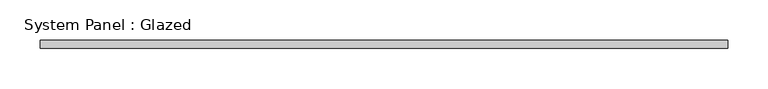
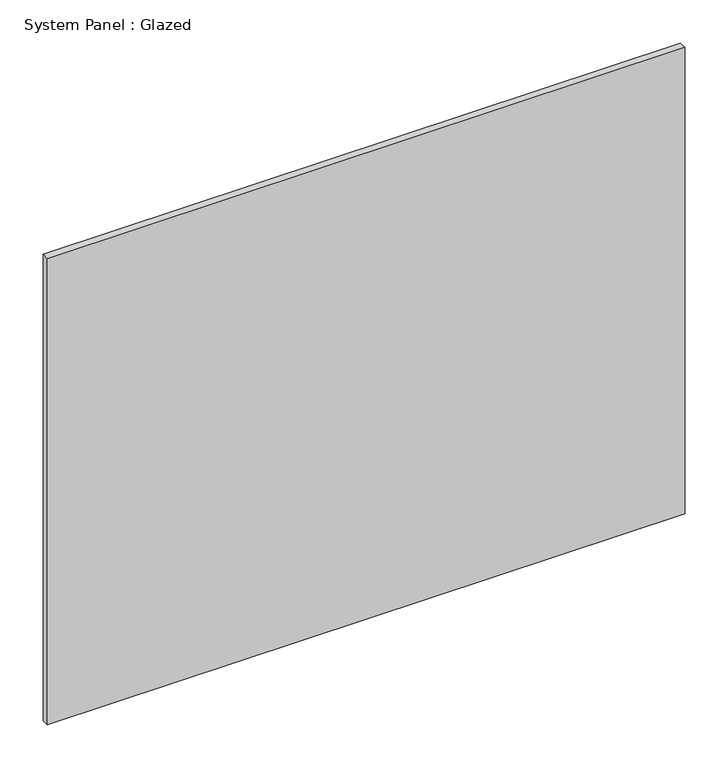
"""IFC4 building model written with IfcOpenShell, lengths in millimetres: plate geometry, System Panel : Glazed."""

import ifcopenshell
import ifcopenshell.guid

model = None  # the IFC model being written
_history = None  # IfcOwnerHistory: only IFC2X3 demands one
_inside = {}  # id of a spatial element -> (the spatial element, [elements in it])
_under = {}  # id of a project, library or spatial element -> (it, [spatial elements below it])
_declared = {}  # id of a project -> (the project, [libraries it declares])
_typed = {}  # id of a type object -> (the type object, [elements of that type])
_made_of = {}  # id of a material, layer set ... -> (it, [elements and type objects made of it])


def new_model(schema):
    """Start an empty IFC model of exactly this schema.

    Asked for "IFC4X3", IfcOpenShell would pick the latest addendum, in which some entities
    have other attributes; the version numbers below select the first issue.
    IFC2X3 requires an IfcOwnerHistory on every rooted entity: one is made here for all.
    """
    global model, _history
    if schema == "IFC4X3":
        model = ifcopenshell.file(schema_version=(4, 3, 0, 0))
    else:
        model = ifcopenshell.file(schema=schema)
    _inside.clear()
    _under.clear()
    _declared.clear()
    _typed.clear()
    _made_of.clear()
    _history = None
    if model.schema == "IFC2X3":
        org = make("IfcOrganization", Name="unknown")
        user = make(
            "IfcPersonAndOrganization",
            ThePerson=make("IfcPerson", FamilyName="unknown"),
            TheOrganization=org,
        )
        app = make(
            "IfcApplication",
            ApplicationDeveloper=org,
            Version="unknown",
            ApplicationFullName="unknown",
            ApplicationIdentifier="unknown",
        )
        _history = make(
            "IfcOwnerHistory",
            OwningUser=user,
            OwningApplication=app,
            ChangeAction="ADDED",
            CreationDate=0,
        )
    return model


def make(cls, **values):
    """One entity of the class cls with the attributes given. An attribute that is None is left unset."""
    return model.create_entity(
        cls, **{name: value for name, value in values.items() if value is not None}
    )


def rooted(cls, **values):
    """An entity with a GlobalId (a new one), such as an element, a storey or a relation."""
    return make(cls, GlobalId=ifcopenshell.guid.new(), OwnerHistory=_history, **values)


def si_unit(unit_type, name, prefix=None):
    """IfcSIUnit, for example si_unit("LENGTHUNIT", "METRE", prefix="MILLI")."""
    return make("IfcSIUnit", UnitType=unit_type, Prefix=prefix, Name=name)


def assignment(units):
    """IfcUnitAssignment: the units of a project."""
    return None if units is None else make("IfcUnitAssignment", Units=units)


def point(xyz):
    """IfcCartesianPoint."""
    return None if xyz is None else make("IfcCartesianPoint", Coordinates=xyz)


def direction(xyz):
    """IfcDirection."""
    return None if xyz is None else make("IfcDirection", DirectionRatios=xyz)


def frame(location, z_axis=None, x_axis=None):
    """IfcAxis2Placement3D, a coordinate frame: its origin and axes. An axis left out is left unset."""
    return make(
        "IfcAxis2Placement3D",
        Location=point(location),
        Axis=direction(z_axis),
        RefDirection=direction(x_axis),
    )


def origin():
    """The frame at (0, 0, 0) with its axes left unset."""
    return frame((0.0, 0.0, 0.0))


def origin_with_axes():
    """The frame at (0, 0, 0) with the z axis (0, 0, 1) and the x axis (1, 0, 0) written out."""
    return frame((0.0, 0.0, 0.0), z_axis=(0.0, 0.0, 1.0), x_axis=(1.0, 0.0, 0.0))


def place(relative_to, where):
    """IfcLocalPlacement: puts the frame where relative to a parent placement (None: the world)."""
    return make(
        "IfcLocalPlacement", PlacementRelTo=relative_to, RelativePlacement=where
    )


def context(
    kind, dimensions, precision=None, world=None, true_north=None, identifier=None
):
    """IfcGeometricRepresentationContext, for example the 3D "Model" context."""
    return make(
        "IfcGeometricRepresentationContext",
        ContextIdentifier=identifier,
        ContextType=kind,
        CoordinateSpaceDimension=dimensions,
        Precision=precision,
        WorldCoordinateSystem=world,
        TrueNorth=true_north,
    )


def project(units=None, contexts=None):
    """IfcProject with its units and contexts."""
    return rooted(
        "IfcProject",
        Name="project",
        RepresentationContexts=contexts,
        UnitsInContext=assignment(units),
    )


def spatial(cls, under=None, at=None, **own):
    """A site, building, storey or space (cls), placed at a placement, below another one or the project."""
    s = rooted(cls, ObjectPlacement=at, **own)
    if under is not None:
        _under.setdefault(under.id(), (under, []))[1].append(s)
    return s


def polyline(points):
    """IfcPolyline through the points."""
    return make("IfcPolyline", Points=[point(p) for p in points])


def outline(outer, holes=None, kind="AREA"):
    """IfcArbitraryClosedProfileDef: a profile drawn as a closed curve; with holes, ...WithVoids."""
    if holes is None:
        return make("IfcArbitraryClosedProfileDef", ProfileType=kind, OuterCurve=outer)
    return make(
        "IfcArbitraryProfileDefWithVoids",
        ProfileType=kind,
        OuterCurve=outer,
        InnerCurves=holes,
    )


def extrude(swept, where, along, depth):
    """IfcExtrudedAreaSolid: the profile swept, set in the frame where, extruded along a direction by depth."""
    return make(
        "IfcExtrudedAreaSolid",
        SweptArea=swept,
        Position=where,
        ExtrudedDirection=direction(along),
        Depth=depth,
    )


def shape(context_of_items, identifier, shape_type, items):
    """IfcShapeRepresentation: the items that make up one representation, for example the "Body"."""
    return make(
        "IfcShapeRepresentation",
        ContextOfItems=context_of_items,
        RepresentationIdentifier=identifier,
        RepresentationType=shape_type,
        Items=items,
    )


def source(mapping_origin, context_of_items, identifier, shape_type, items):
    """IfcRepresentationMap: a shape defined once, which mapped items show again and again."""
    return make(
        "IfcRepresentationMap",
        MappingOrigin=mapping_origin,
        MappedRepresentation=shape(context_of_items, identifier, shape_type, items),
    )


def transform(
    local_origin,
    x_axis=None,
    y_axis=None,
    z_axis=None,
    scale=None,
    scale2=None,
    scale3=None,
    uniform=True,
):
    """IfcCartesianTransformationOperator3D, or its non-uniform kind. x_axis, y_axis, z_axis: its Axis1, 2, 3."""
    if uniform:
        return make(
            "IfcCartesianTransformationOperator3D",
            Axis1=direction(x_axis),
            Axis2=direction(y_axis),
            LocalOrigin=point(local_origin),
            Scale=scale,
            Axis3=direction(z_axis),
        )
    return make(
        "IfcCartesianTransformationOperator3DnonUniform",
        Axis1=direction(x_axis),
        Axis2=direction(y_axis),
        LocalOrigin=point(local_origin),
        Scale=scale,
        Axis3=direction(z_axis),
        Scale2=scale2,
        Scale3=scale3,
    )


def mapped(mapping_source, mapping_target):
    """IfcMappedItem: shows the shape of a source again, moved by a transform."""
    return make(
        "IfcMappedItem", MappingSource=mapping_source, MappingTarget=mapping_target
    )


def made_of(thing, what):
    """Note that an element or type object is made of a material, layer set ...; save() writes the relation."""
    if what is not None:
        _made_of.setdefault(what.id(), (what, []))[1].append(thing)
    return thing


def element(
    cls,
    number,
    at=None,
    inside=None,
    cuts=None,
    type_object=None,
    material=None,
    context=None,
    identifier="Body",
    shape_type=None,
    held_by="IfcProductDefinitionShape",
    body=None,
    shapes=None,
    **own,
):
    """One element of the class cls, such as IfcWall. Its Tag is "e" and its number.

    at: its placement. inside: the storey or other place that contains it. cuts: it is an
    opening in that element (IfcRelVoidsElement). A single representation is given by context,
    identifier, shape_type and body (its items); several are given by shapes. held_by: the class
    of the entity that holds the representations. save() writes the other relations.
    """
    e = rooted(cls, Tag="e%d" % number, ObjectPlacement=at, **own)
    if body is not None:
        shapes = [shape(context, identifier, shape_type, body)]
    if shapes is not None:
        e.Representation = make(held_by, Representations=shapes)
    if inside is not None:
        _inside.setdefault(inside.id(), (inside, []))[1].append(e)
    if cuts is not None:
        rooted(
            "IfcRelVoidsElement", RelatingBuildingElement=cuts, RelatedOpeningElement=e
        )
    if type_object is not None:
        _typed.setdefault(type_object.id(), (type_object, []))[1].append(e)
    return made_of(e, material)


def aggregate(whole, parts):
    """IfcRelAggregates: a whole, such as a stair, and the parts it consists of."""
    return rooted("IfcRelAggregates", RelatingObject=whole, RelatedObjects=parts)


def save(model, path):
    """Write the relations noted so far, then the file.

    IfcRelAggregates (storeys below a building ...), IfcRelContainedInSpatialStructure (elements
    in a storey), IfcRelDefinesByType, IfcRelAssociatesMaterial and IfcRelDeclares: one each for
    every whole, place, type object, material and project.
    """
    for whole, parts in _under.values():
        aggregate(whole, parts)
    for where, things in _inside.values():
        rooted(
            "IfcRelContainedInSpatialStructure",
            RelatedElements=things,
            RelatingStructure=where,
        )
    for kind, things in _typed.values():
        rooted("IfcRelDefinesByType", RelatedObjects=things, RelatingType=kind)
    for what, things in _made_of.values():
        rooted("IfcRelAssociatesMaterial", RelatedObjects=things, RelatingMaterial=what)
    for by, libraries in _declared.values():
        rooted("IfcRelDeclares", RelatingContext=by, RelatedDefinitions=libraries)
    model.write(path)


def system_panel_glazed_6e84255a(model_context):
    return source(origin(), model_context, "Body", "SweptSolid", [
        extrude(outline(polyline([(427.0218271, -5.0), (-427.0218271, -5.0), (-427.0218271, 5.0), (427.0218271, 5.0), (427.0218271, -5.0)])), origin_with_axes(), (0.0, 0.0, 1.0), 660.0),
    ])


if __name__ == "__main__":
    model = new_model("IFC4")
    model_context = context("Model", 3, world=origin())
    ifc_project = project(units=[si_unit("LENGTHUNIT", "METRE", prefix="MILLI")], contexts=[model_context])
    site = spatial("IfcSite", under=ifc_project)
    building = spatial("IfcBuilding", under=site)
    placement = place(None, origin())
    system_panel_glazed_shape = system_panel_glazed_6e84255a(model_context)
    element("IfcPlate", 1, ObjectType="System Panel : Glazed", at=placement, inside=building, context=model_context, shape_type="MappedRepresentation", body=[
        mapped(system_panel_glazed_shape, transform((0.0, 0.0, 0.0), x_axis=(1.0, 0.0, 0.0), y_axis=(0.0, 1.0, 0.0), z_axis=(0.0, 0.0, 1.0))),
    ])
    save(model, "model.ifc")
